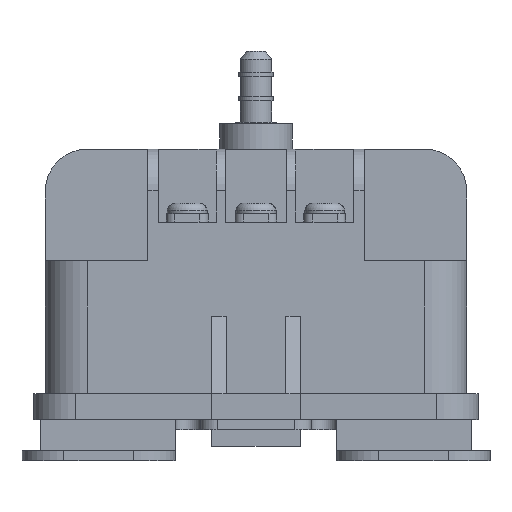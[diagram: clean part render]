
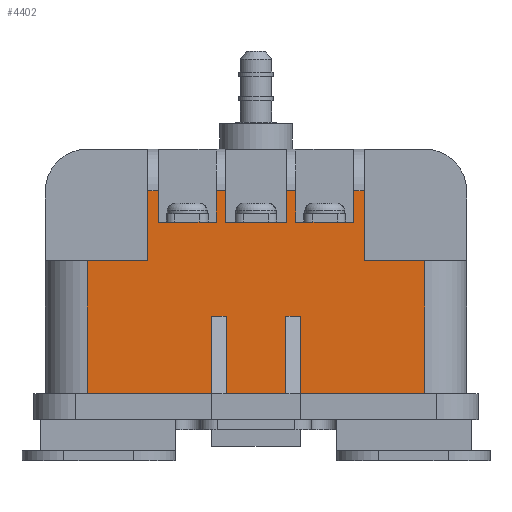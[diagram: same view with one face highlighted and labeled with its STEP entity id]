
A CAD part, left-side view. The second image highlights one B-rep face of the part: STEP entity #4402.
In plain terms, the highlighted planar face has unit normal (-1, 0, 0).
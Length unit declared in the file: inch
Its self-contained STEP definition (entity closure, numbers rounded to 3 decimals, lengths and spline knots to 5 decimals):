
#49=LINE($,#6563,#495);
#50=LINE($,#6566,#496);
#53=LINE($,#6572,#499);
#54=LINE($,#6574,#500);
#55=LINE($,#6576,#501);
#56=LINE($,#6578,#502);
#57=LINE($,#6580,#503);
#58=LINE($,#6582,#504);
#59=LINE($,#6584,#505);
#60=LINE($,#6586,#506);
#61=LINE($,#6588,#507);
#62=LINE($,#6590,#508);
#63=LINE($,#6592,#509);
#64=LINE($,#6594,#510);
#65=LINE($,#6596,#511);
#66=LINE($,#6598,#512);
#67=LINE($,#6600,#513);
#68=LINE($,#6602,#514);
#69=LINE($,#6604,#515);
#70=LINE($,#6606,#516);
#71=LINE($,#6608,#517);
#72=LINE($,#6610,#518);
#73=LINE($,#6612,#519);
#74=LINE($,#6614,#520);
#75=LINE($,#6616,#521);
#76=LINE($,#6618,#522);
#77=LINE($,#6620,#523);
#78=LINE($,#6621,#524);
#495=VECTOR($,#5244,0.065);
#496=VECTOR($,#5247,0.417);
#499=VECTOR($,#5252,0.186);
#500=VECTOR($,#5253,0.345);
#501=VECTOR($,#5254,0.186);
#502=VECTOR($,#5255,0.055);
#503=VECTOR($,#5256,0.186);
#504=VECTOR($,#5257,0.365);
#505=VECTOR($,#5258,0.186);
#506=VECTOR($,#5259,0.055);
#507=VECTOR($,#5260,0.186);
#508=VECTOR($,#5261,0.345);
#509=VECTOR($,#5262,0.186);
#510=VECTOR($,#5263,0.065);
#511=VECTOR($,#5264,0.417);
#512=VECTOR($,#5265,0.36);
#513=VECTOR($,#5266,0.793);
#514=VECTOR($,#5267,0.7425);
#515=VECTOR($,#5268,0.46);
#516=VECTOR($,#5269,0.0865);
#517=VECTOR($,#5270,0.46);
#518=VECTOR($,#5271,0.357);
#519=VECTOR($,#5272,0.46);
#520=VECTOR($,#5273,0.0865);
#521=VECTOR($,#5274,0.46);
#522=VECTOR($,#5275,0.7425);
#523=VECTOR($,#5276,0.793);
#524=VECTOR($,#5277,0.36);
#946=PLANE($,#4713);
#1195=FACE_OUTER_BOUND($,#1487,.T.);
#1487=EDGE_LOOP($,(#3095,#3096,#3097,#3098,#3099,#3100,#3101,#3102,#3103,
#3104,#3105,#3106,#3107,#3108,#3109,#3110,#3111,#3112,#3113,#3114,#3115,
#3116,#3117,#3118,#3119,#3120,#3121,#3122));
#1982=VERTEX_POINT($,#6559);
#1983=VERTEX_POINT($,#6561);
#1984=VERTEX_POINT($,#6565);
#1986=VERTEX_POINT($,#6571);
#1987=VERTEX_POINT($,#6573);
#1988=VERTEX_POINT($,#6575);
#1989=VERTEX_POINT($,#6577);
#1990=VERTEX_POINT($,#6579);
#1991=VERTEX_POINT($,#6581);
#1992=VERTEX_POINT($,#6583);
#1993=VERTEX_POINT($,#6585);
#1994=VERTEX_POINT($,#6587);
#1995=VERTEX_POINT($,#6589);
#1996=VERTEX_POINT($,#6591);
#1997=VERTEX_POINT($,#6593);
#1998=VERTEX_POINT($,#6595);
#1999=VERTEX_POINT($,#6597);
#2000=VERTEX_POINT($,#6599);
#2001=VERTEX_POINT($,#6601);
#2002=VERTEX_POINT($,#6603);
#2003=VERTEX_POINT($,#6605);
#2004=VERTEX_POINT($,#6607);
#2005=VERTEX_POINT($,#6609);
#2006=VERTEX_POINT($,#6611);
#2007=VERTEX_POINT($,#6613);
#2008=VERTEX_POINT($,#6615);
#2009=VERTEX_POINT($,#6617);
#2010=VERTEX_POINT($,#6619);
#2420=EDGE_CURVE($,#1983,#1982,#49,.T.);
#2421=EDGE_CURVE($,#1984,#1982,#50,.T.);
#2424=EDGE_CURVE($,#1983,#1986,#53,.T.);
#2425=EDGE_CURVE($,#1986,#1987,#54,.T.);
#2426=EDGE_CURVE($,#1987,#1988,#55,.T.);
#2427=EDGE_CURVE($,#1989,#1988,#56,.T.);
#2428=EDGE_CURVE($,#1990,#1989,#57,.T.);
#2429=EDGE_CURVE($,#1990,#1991,#58,.T.);
#2430=EDGE_CURVE($,#1991,#1992,#59,.T.);
#2431=EDGE_CURVE($,#1993,#1992,#60,.T.);
#2432=EDGE_CURVE($,#1994,#1993,#61,.T.);
#2433=EDGE_CURVE($,#1994,#1995,#62,.T.);
#2434=EDGE_CURVE($,#1995,#1996,#63,.T.);
#2435=EDGE_CURVE($,#1997,#1996,#64,.T.);
#2436=EDGE_CURVE($,#1998,#1997,#65,.T.);
#2437=EDGE_CURVE($,#1999,#1998,#66,.T.);
#2438=EDGE_CURVE($,#2000,#1999,#67,.T.);
#2439=EDGE_CURVE($,#2001,#2000,#68,.T.);
#2440=EDGE_CURVE($,#2002,#2001,#69,.T.);
#2441=EDGE_CURVE($,#2003,#2002,#70,.T.);
#2442=EDGE_CURVE($,#2003,#2004,#71,.T.);
#2443=EDGE_CURVE($,#2005,#2004,#72,.T.);
#2444=EDGE_CURVE($,#2006,#2005,#73,.T.);
#2445=EDGE_CURVE($,#2006,#2007,#74,.T.);
#2446=EDGE_CURVE($,#2007,#2008,#75,.T.);
#2447=EDGE_CURVE($,#2009,#2008,#76,.T.);
#2448=EDGE_CURVE($,#2010,#2009,#77,.T.);
#2449=EDGE_CURVE($,#2010,#1984,#78,.T.);
#3095=ORIENTED_EDGE($,*,*,#2420,.F.);
#3096=ORIENTED_EDGE($,*,*,#2424,.T.);
#3097=ORIENTED_EDGE($,*,*,#2425,.T.);
#3098=ORIENTED_EDGE($,*,*,#2426,.T.);
#3099=ORIENTED_EDGE($,*,*,#2427,.F.);
#3100=ORIENTED_EDGE($,*,*,#2428,.F.);
#3101=ORIENTED_EDGE($,*,*,#2429,.T.);
#3102=ORIENTED_EDGE($,*,*,#2430,.T.);
#3103=ORIENTED_EDGE($,*,*,#2431,.F.);
#3104=ORIENTED_EDGE($,*,*,#2432,.F.);
#3105=ORIENTED_EDGE($,*,*,#2433,.T.);
#3106=ORIENTED_EDGE($,*,*,#2434,.T.);
#3107=ORIENTED_EDGE($,*,*,#2435,.F.);
#3108=ORIENTED_EDGE($,*,*,#2436,.F.);
#3109=ORIENTED_EDGE($,*,*,#2437,.F.);
#3110=ORIENTED_EDGE($,*,*,#2438,.F.);
#3111=ORIENTED_EDGE($,*,*,#2439,.F.);
#3112=ORIENTED_EDGE($,*,*,#2440,.F.);
#3113=ORIENTED_EDGE($,*,*,#2441,.F.);
#3114=ORIENTED_EDGE($,*,*,#2442,.T.);
#3115=ORIENTED_EDGE($,*,*,#2443,.F.);
#3116=ORIENTED_EDGE($,*,*,#2444,.F.);
#3117=ORIENTED_EDGE($,*,*,#2445,.T.);
#3118=ORIENTED_EDGE($,*,*,#2446,.T.);
#3119=ORIENTED_EDGE($,*,*,#2447,.F.);
#3120=ORIENTED_EDGE($,*,*,#2448,.F.);
#3121=ORIENTED_EDGE($,*,*,#2449,.T.);
#3122=ORIENTED_EDGE($,*,*,#2421,.T.);
#4402=ADVANCED_FACE($,(#1195),#946,.T.);
#4713=AXIS2_PLACEMENT_3D($,#6570,#5250,#5251);
#5244=DIRECTION($,(0.,-1.,0.));
#5247=DIRECTION($,(0.,0.,1.));
#5250=DIRECTION('center_axis',(-1.,0.,0.));
#5251=DIRECTION('ref_axis',(0.,0.,1.));
#5252=DIRECTION($,(0.,0.,-1.));
#5253=DIRECTION($,(0.,1.,0.));
#5254=DIRECTION($,(0.,0.,1.));
#5255=DIRECTION($,(0.,-1.,0.));
#5256=DIRECTION($,(0.,0.,1.));
#5257=DIRECTION($,(0.,1.,0.));
#5258=DIRECTION($,(0.,0.,1.));
#5259=DIRECTION($,(0.,-1.,0.));
#5260=DIRECTION($,(0.,0.,1.));
#5261=DIRECTION($,(0.,1.,0.));
#5262=DIRECTION($,(0.,0.,1.));
#5263=DIRECTION($,(0.,-1.,0.));
#5264=DIRECTION($,(0.,0.,1.));
#5265=DIRECTION($,(0.,-1.,0.));
#5266=DIRECTION($,(0.,0.,1.));
#5267=DIRECTION($,(0.,1.,0.));
#5268=DIRECTION($,(0.,0.,-1.));
#5269=DIRECTION($,(0.,1.,0.));
#5270=DIRECTION($,(0.,0.,-1.));
#5271=DIRECTION($,(0.,1.,0.));
#5272=DIRECTION($,(0.,0.,-1.));
#5273=DIRECTION($,(0.,-1.,0.));
#5274=DIRECTION($,(0.,0.,-1.));
#5275=DIRECTION($,(0.,1.,0.));
#5276=DIRECTION($,(0.,0.,-1.));
#5277=DIRECTION($,(0.,1.,0.));
#6559=CARTESIAN_POINT('',(10.81136,9.25286,1.4255));
#6561=CARTESIAN_POINT('',(10.81136,9.31786,1.4255));
#6563=CARTESIAN_POINT($,(10.81136,9.31786,1.4255));
#6565=CARTESIAN_POINT('',(10.81136,9.25286,1.0085));
#6566=CARTESIAN_POINT($,(10.81136,9.25286,1.0085));
#6570=CARTESIAN_POINT('Origin',(10.81136,8.89286,0.8205));
#6571=CARTESIAN_POINT('',(10.81136,9.31786,1.2395));
#6572=CARTESIAN_POINT($,(10.81136,9.31786,1.4255));
#6573=CARTESIAN_POINT('',(10.81136,9.66286,1.2395));
#6574=CARTESIAN_POINT($,(10.81136,9.31786,1.2395));
#6575=CARTESIAN_POINT('',(10.81136,9.66286,1.4255));
#6576=CARTESIAN_POINT($,(10.81136,9.66286,1.2395));
#6577=CARTESIAN_POINT('',(10.81136,9.71786,1.4255));
#6578=CARTESIAN_POINT($,(10.81136,9.71786,1.4255));
#6579=CARTESIAN_POINT('',(10.81136,9.71786,1.2395));
#6580=CARTESIAN_POINT($,(10.81136,9.71786,1.2395));
#6581=CARTESIAN_POINT('',(10.81136,10.08286,1.2395));
#6582=CARTESIAN_POINT($,(10.81136,9.71786,1.2395));
#6583=CARTESIAN_POINT('',(10.81136,10.08286,1.4255));
#6584=CARTESIAN_POINT($,(10.81136,10.08286,1.2395));
#6585=CARTESIAN_POINT('',(10.81136,10.13786,1.4255));
#6586=CARTESIAN_POINT($,(10.81136,10.13786,1.4255));
#6587=CARTESIAN_POINT('',(10.81136,10.13786,1.2395));
#6588=CARTESIAN_POINT($,(10.81136,10.13786,1.2395));
#6589=CARTESIAN_POINT('',(10.81136,10.48286,1.2395));
#6590=CARTESIAN_POINT($,(10.81136,10.13786,1.2395));
#6591=CARTESIAN_POINT('',(10.81136,10.48286,1.4255));
#6592=CARTESIAN_POINT($,(10.81136,10.48286,1.2395));
#6593=CARTESIAN_POINT('',(10.81136,10.54786,1.4255));
#6594=CARTESIAN_POINT($,(10.81136,10.54786,1.4255));
#6595=CARTESIAN_POINT('',(10.81136,10.54786,1.0085));
#6596=CARTESIAN_POINT($,(10.81136,10.54786,1.0085));
#6597=CARTESIAN_POINT('',(10.81136,10.90786,1.0085));
#6598=CARTESIAN_POINT($,(10.81136,10.90786,1.0085));
#6599=CARTESIAN_POINT('',(10.81136,10.90786,0.2155));
#6600=CARTESIAN_POINT($,(10.81136,10.90786,0.2155));
#6601=CARTESIAN_POINT('',(10.81136,10.16536,0.2155));
#6602=CARTESIAN_POINT($,(10.81136,10.16536,0.2155));
#6603=CARTESIAN_POINT('',(10.81136,10.16536,0.6755));
#6604=CARTESIAN_POINT($,(10.81136,10.16536,0.6755));
#6605=CARTESIAN_POINT('',(10.81136,10.07886,0.6755));
#6606=CARTESIAN_POINT($,(10.81136,10.07886,0.6755));
#6607=CARTESIAN_POINT('',(10.81136,10.07886,0.2155));
#6608=CARTESIAN_POINT($,(10.81136,10.07886,0.6755));
#6609=CARTESIAN_POINT('',(10.81136,9.72186,0.2155));
#6610=CARTESIAN_POINT($,(10.81136,9.72186,0.2155));
#6611=CARTESIAN_POINT('',(10.81136,9.72186,0.6755));
#6612=CARTESIAN_POINT($,(10.81136,9.72186,0.6755));
#6613=CARTESIAN_POINT('',(10.81136,9.63536,0.6755));
#6614=CARTESIAN_POINT($,(10.81136,9.72186,0.6755));
#6615=CARTESIAN_POINT('',(10.81136,9.63536,0.2155));
#6616=CARTESIAN_POINT($,(10.81136,9.63536,0.6755));
#6617=CARTESIAN_POINT('',(10.81136,8.89286,0.2155));
#6618=CARTESIAN_POINT($,(10.81136,8.89286,0.2155));
#6619=CARTESIAN_POINT('',(10.81136,8.89286,1.0085));
#6620=CARTESIAN_POINT($,(10.81136,8.89286,1.0085));
#6621=CARTESIAN_POINT($,(10.81136,8.89286,1.0085));
